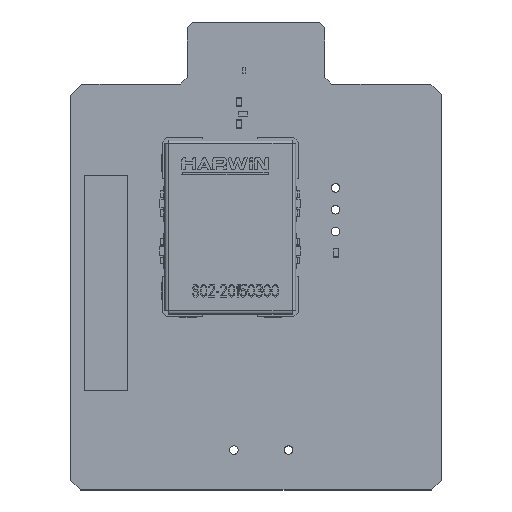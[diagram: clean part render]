
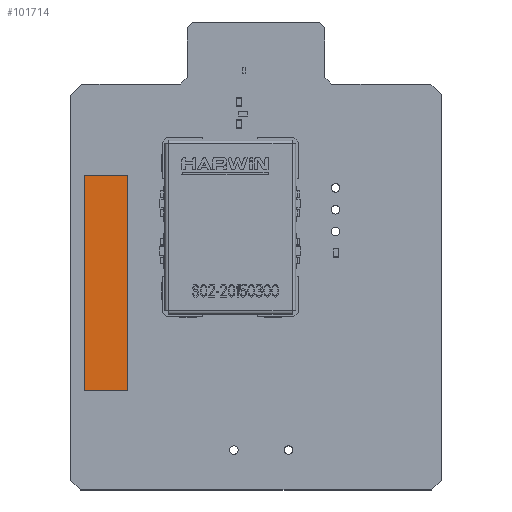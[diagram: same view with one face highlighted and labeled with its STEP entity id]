
A CAD part, top view. The second image highlights one B-rep face of the part: STEP entity #101714.
In plain terms, the highlighted planar face has unit normal (0, 0, 1).
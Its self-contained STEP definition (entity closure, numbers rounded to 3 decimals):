
#101585 = VERTEX_POINT('',#101586);
#101586 = CARTESIAN_POINT('',(-2.5,-12.5,0.01));
#101592 = EDGE_CURVE('',#101585,#101593,#101595,.T.);
#101593 = VERTEX_POINT('',#101594);
#101594 = CARTESIAN_POINT('',(2.5,-12.5,0.01));
#101595 = LINE('',#101596,#101597);
#101596 = CARTESIAN_POINT('',(-2.5,-12.5,0.01));
#101597 = VECTOR('',#101598,1.);
#101598 = DIRECTION('',(1.,0.,0.));
#101623 = EDGE_CURVE('',#101593,#101624,#101626,.T.);
#101624 = VERTEX_POINT('',#101625);
#101625 = CARTESIAN_POINT('',(2.5,12.5,0.01));
#101626 = LINE('',#101627,#101628);
#101627 = CARTESIAN_POINT('',(2.5,-12.5,0.01));
#101628 = VECTOR('',#101629,1.);
#101629 = DIRECTION('',(0.,1.,0.));
#101654 = EDGE_CURVE('',#101624,#101655,#101657,.T.);
#101655 = VERTEX_POINT('',#101656);
#101656 = CARTESIAN_POINT('',(-2.5,12.5,0.01));
#101657 = LINE('',#101658,#101659);
#101658 = CARTESIAN_POINT('',(2.5,12.5,0.01));
#101659 = VECTOR('',#101660,1.);
#101660 = DIRECTION('',(-1.,0.,0.));
#101685 = EDGE_CURVE('',#101655,#101585,#101686,.T.);
#101686 = LINE('',#101687,#101688);
#101687 = CARTESIAN_POINT('',(-2.5,12.5,0.01));
#101688 = VECTOR('',#101689,1.);
#101689 = DIRECTION('',(0.,-1.,0.));
#101714 = ADVANCED_FACE('',(#101715),#101721,.T.);
#101715 = FACE_BOUND('',#101716,.T.);
#101716 = EDGE_LOOP('',(#101717,#101718,#101719,#101720));
#101717 = ORIENTED_EDGE('',*,*,#101592,.T.);
#101718 = ORIENTED_EDGE('',*,*,#101623,.T.);
#101719 = ORIENTED_EDGE('',*,*,#101654,.T.);
#101720 = ORIENTED_EDGE('',*,*,#101685,.T.);
#101721 = PLANE('',#101722);
#101722 = AXIS2_PLACEMENT_3D('',#101723,#101724,#101725);
#101723 = CARTESIAN_POINT('',(0.,0.,
    0.01));
#101724 = DIRECTION('',(0.,0.,1.));
#101725 = DIRECTION('',(1.,0.,-0.));
